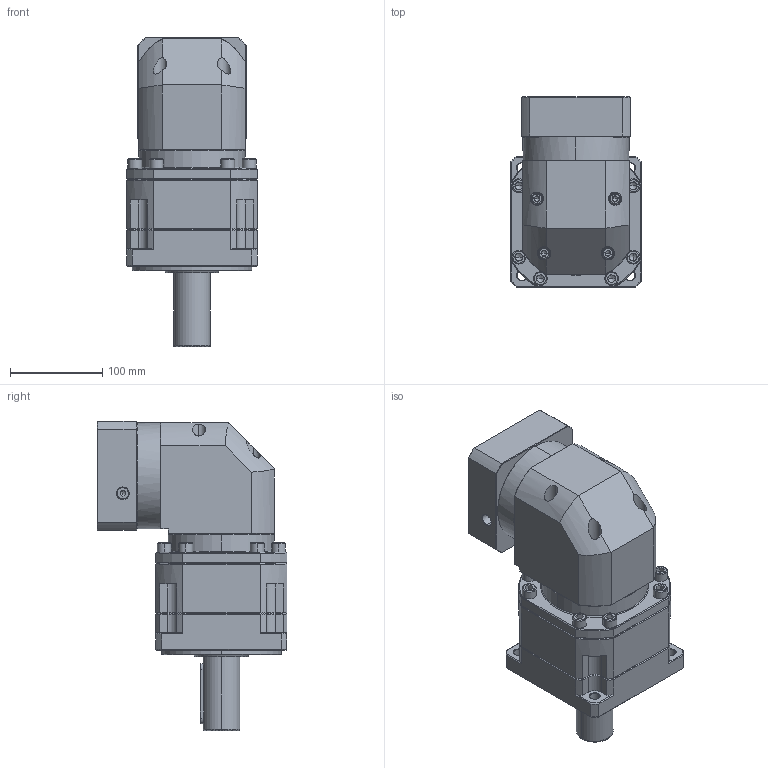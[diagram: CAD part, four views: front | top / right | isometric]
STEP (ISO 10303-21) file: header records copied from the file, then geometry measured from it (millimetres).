
FILE_DESCRIPTION (( 'STEP AP214' ), '1' );
FILE_NAME ('ZBR142A-D40-L2-P2-22-95-115-M8.step', '2023-09-02T08:09:17', ( '' ), ( '' ), 'SwSTEP 2.0', 'SolidWorks 2016', '' );
FILE_SCHEMA (( 'AUTOMOTIVE_DESIGN' ));
Length unit declared in the file: millimetre
Products named in the file (1): ZBR142A-D40-L2-P2-22-95-115-M8
Bounding box: 142 x 205.9 x 335.2 mm (x, y, z)
Volume: 4394003.4 mm3; surface area: 316830.5 mm2
Topology: 6 solids, 6 shells, 2590 faces, 6735 edges, 4271 vertices
Faces by surface type: plane 1232, cylinder 502, bspline 411, cone 399, torus 46
Entity records: 137062 total; most frequent: CARTESIAN_POINT 48581, ORIENTED_EDGE 13362, DIRECTION 10932, EDGE_CURVE 6681, VECTOR 4274, LINE 4274, VERTEX_POINT 4271, AXIS2_PLACEMENT_3D 3329
